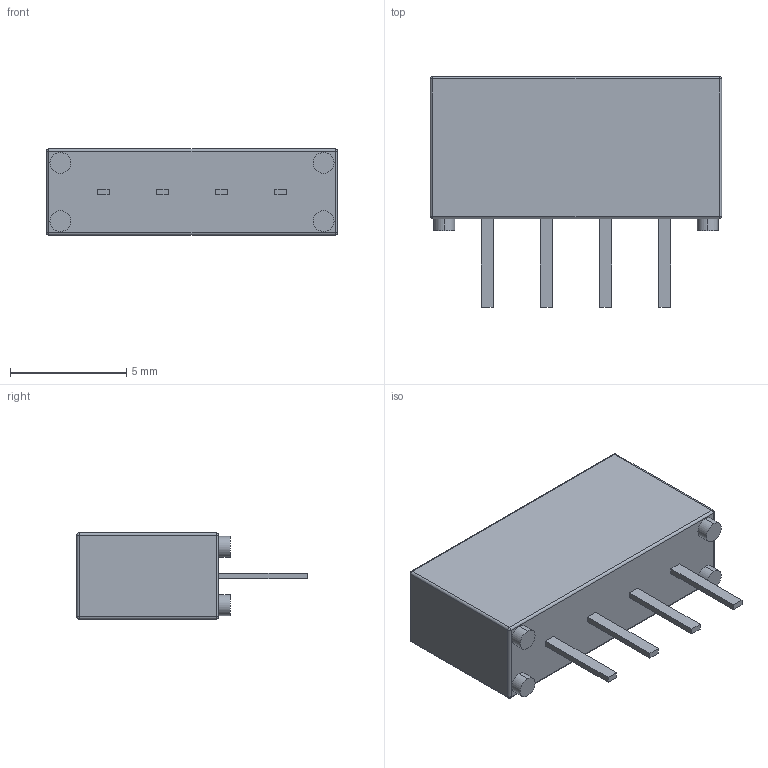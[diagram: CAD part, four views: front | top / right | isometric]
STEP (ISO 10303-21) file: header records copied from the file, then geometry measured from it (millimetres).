
FILE_DESCRIPTION (( 'STEP AP203' ), '1' );
FILE_NAME ('113-1-A.STEP', '2010-06-29T11:02:13', ( ' ' ), ( '' ), 'SwSTEP 2.0', 'SolidWorks 2009', '' );
FILE_SCHEMA (( 'CONFIG_CONTROL_DESIGN' ));
Length unit declared in the file: millimetre
Products named in the file (1): 113-1-A
Bounding box: 12.5 x 9.9 x 3.7 mm (x, y, z)
Volume: 284.8 mm3; surface area: 315 mm2
Topology: 1 solids, 1 shells, 278 faces, 713 edges, 462 vertices
Faces by surface type: plane 205, bspline 43, cylinder 22, sphere 8
Entity records: 10764 total; most frequent: CARTESIAN_POINT 4233, ORIENTED_EDGE 1410, DIRECTION 1135, EDGE_CURVE 705, LINE 575, VECTOR 575, VERTEX_POINT 462, EDGE_LOOP 311
